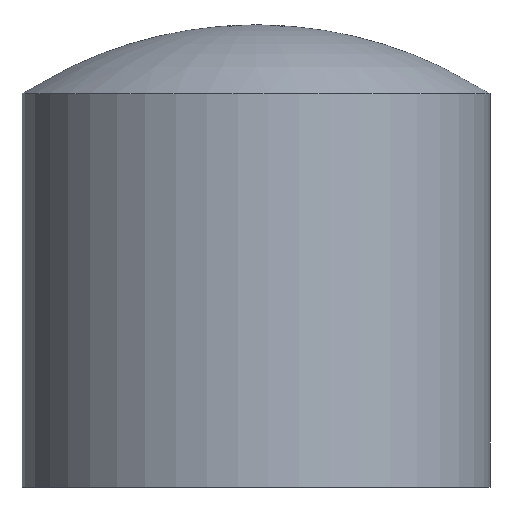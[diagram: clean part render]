
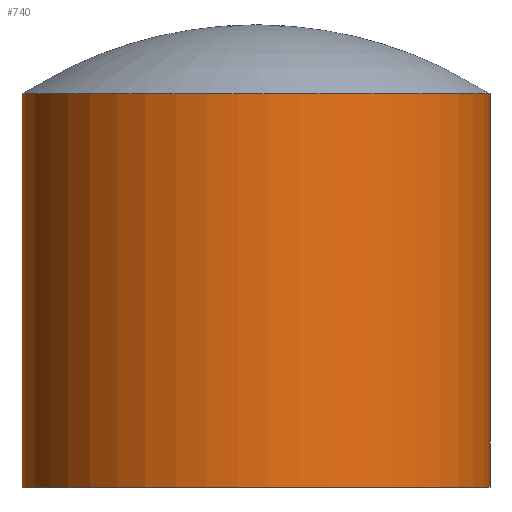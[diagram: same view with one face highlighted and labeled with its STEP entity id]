
A CAD part, front view. The second image highlights one B-rep face of the part: STEP entity #740.
In plain terms, the highlighted cylindrical face has radius 12.5 mm (diameter 25 mm), a partial arc.
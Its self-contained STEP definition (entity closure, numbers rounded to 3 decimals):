
#10 = CARTESIAN_POINT ('', (12.5, 0., 18.634));
#20 = VERTEX_POINT ('', #10);
#110 = CARTESIAN_POINT ('', (-12.5, 0., 18.634));
#120 = VERTEX_POINT ('', #110);
#190 = CARTESIAN_POINT ('', (-12.5, 0., -2.385));
#200 = VERTEX_POINT ('', #190);
#210 = CARTESIAN_POINT ('', (-12.5, 0., 18.634));
#220 = CARTESIAN_POINT ('', (-12.5, 0., -2.385));
#230 = B_SPLINE_CURVE_WITH_KNOTS ('', 1, (#210, #220), .UNSPECIFIED., .F., .U., (2, 2), (0., 1.), .UNSPECIFIED.);
#240 = EDGE_CURVE ('', #120, #200, #230, .T.);
#260 = CARTESIAN_POINT ('', (12.5, 0., -2.385));
#270 = VERTEX_POINT ('', #260);
#360 = CARTESIAN_POINT ('', (12.5, 0., 18.634));
#370 = CARTESIAN_POINT ('', (12.5, 0., -2.385));
#380 = B_SPLINE_CURVE_WITH_KNOTS ('', 1, (#360, #370), .UNSPECIFIED., .F., .U., (2, 2), (0., 1.), .UNSPECIFIED.);
#390 = EDGE_CURVE ('', #20, #270, #380, .T.);
#490 = CARTESIAN_POINT ('', (-12.5, 0., 18.634));
#500 = CARTESIAN_POINT ('', (-12.5, -12.5, 18.634));
#510 = CARTESIAN_POINT ('', (0., -12.5, 18.634));
#520 = CARTESIAN_POINT ('', (12.5, -12.5, 18.634));
#530 = CARTESIAN_POINT ('', (12.5, 0., 18.634));
#540 = (
   BOUNDED_CURVE ()
   B_SPLINE_CURVE (2, (#490, #500, #510, #520, #530), .UNSPECIFIED., .F., .U.)
   B_SPLINE_CURVE_WITH_KNOTS ((3, 2, 3), (3.142, 4.712, 6.283), .UNSPECIFIED.)
   CURVE ()
   GEOMETRIC_REPRESENTATION_ITEM ()
   RATIONAL_B_SPLINE_CURVE ((1., 0.707, 1., 0.707, 1.))
   REPRESENTATION_ITEM ('')
);
#550 = EDGE_CURVE ('', #120, #20, #540, .T.);
#560 = ORIENTED_EDGE ('', *, *, #550, .T.);
#570 = ORIENTED_EDGE ('', *, *, #390, .T.);
#580 = CARTESIAN_POINT ('', (-12.5, 0., -2.385));
#590 = CARTESIAN_POINT ('', (-12.5, -12.5, -2.385));
#600 = CARTESIAN_POINT ('', (0., -12.5, -2.385));
#610 = CARTESIAN_POINT ('', (12.5, -12.5, -2.385));
#620 = CARTESIAN_POINT ('', (12.5, 0., -2.385));
#630 = (
   BOUNDED_CURVE ()
   B_SPLINE_CURVE (2, (#580, #590, #600, #610, #620), .UNSPECIFIED., .F., .U.)
   B_SPLINE_CURVE_WITH_KNOTS ((3, 2, 3), (3.142, 4.712, 6.283), .UNSPECIFIED.)
   CURVE ()
   GEOMETRIC_REPRESENTATION_ITEM ()
   RATIONAL_B_SPLINE_CURVE ((1., 0.707, 1., 0.707, 1.))
   REPRESENTATION_ITEM ('')
);
#640 = EDGE_CURVE ('', #200, #270, #630, .T.);
#650 = ORIENTED_EDGE ('', *, *, #640, .F.);
#660 = ORIENTED_EDGE ('', *, *, #240, .F.);
#670 = EDGE_LOOP ('', (#560, #570, #650, #660));
#680 = FACE_OUTER_BOUND ('', #670, .F.);
#690 = CARTESIAN_POINT ('', (0., 0., -2.385));
#700 = DIRECTION ('', (0., 0., 1.));
#710 = DIRECTION ('', (-1., 0., 0.));
#720 = AXIS2_PLACEMENT_3D ('', #690, #700, #710);
#730 = CYLINDRICAL_SURFACE ('', #720, 12.5);
#740 = ADVANCED_FACE ('', (#680), #730, .T.);
